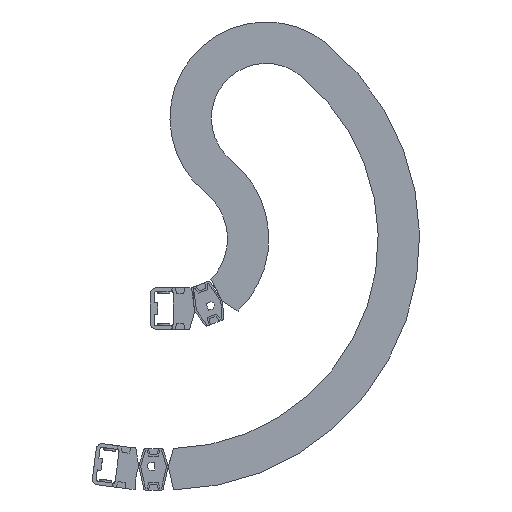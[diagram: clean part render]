
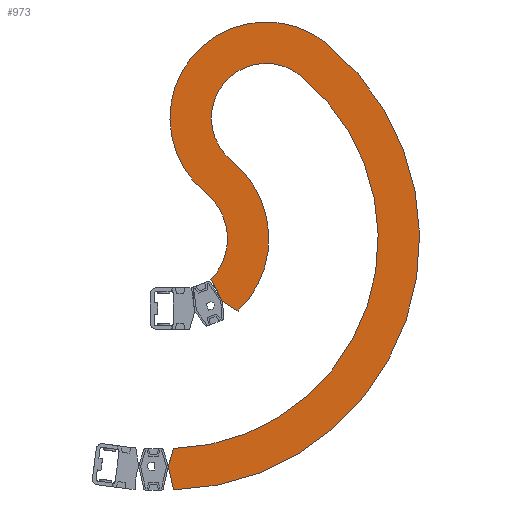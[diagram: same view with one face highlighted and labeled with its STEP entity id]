
A CAD part, front view. The second image highlights one B-rep face of the part: STEP entity #973.
In plain terms, the highlighted planar face has unit normal (0, -1, 0).
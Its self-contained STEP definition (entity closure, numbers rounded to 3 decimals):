
#973 = ADVANCED_FACE( '', ( #1944 ), #1945, .F. );
#1944 = FACE_OUTER_BOUND( '', #2914, .T. );
#1945 = PLANE( '', #2915 );
#2914 = EDGE_LOOP( '', ( #5707, #5708, #5709, #5710, #5711, #5712, #5713, #5714, #5715, #5716 ) );
#2915 = AXIS2_PLACEMENT_3D( '', #5717, #5718, #5719 );
#5707 = ORIENTED_EDGE( '', *, *, #7140, .F. );
#5708 = ORIENTED_EDGE( '', *, *, #7087, .F. );
#5709 = ORIENTED_EDGE( '', *, *, #6990, .F. );
#5710 = ORIENTED_EDGE( '', *, *, #6487, .T. );
#5711 = ORIENTED_EDGE( '', *, *, #7046, .F. );
#5712 = ORIENTED_EDGE( '', *, *, #7166, .F. );
#5713 = ORIENTED_EDGE( '', *, *, #6838, .F. );
#5714 = ORIENTED_EDGE( '', *, *, #6624, .T. );
#5715 = ORIENTED_EDGE( '', *, *, #7112, .T. );
#5716 = ORIENTED_EDGE( '', *, *, #6958, .F. );
#5717 = CARTESIAN_POINT( '', ( 0., -40.5, 0. ) );
#5718 = DIRECTION( '', ( 0., 1., 0. ) );
#5719 = DIRECTION( '', ( 0., 0., 1. ) );
#6487 = EDGE_CURVE( '', #8040, #8041, #8042, .T. );
#6624 = EDGE_CURVE( '', #8242, #8243, #8244, .T. );
#6838 = EDGE_CURVE( '', #8242, #8537, #8538, .T. );
#6958 = EDGE_CURVE( '', #8690, #8692, #8693, .T. );
#6990 = EDGE_CURVE( '', #8040, #8729, #8730, .T. );
#7046 = EDGE_CURVE( '', #8797, #8041, #8799, .T. );
#7087 = EDGE_CURVE( '', #8729, #8849, #8850, .T. );
#7112 = EDGE_CURVE( '', #8243, #8692, #8877, .T. );
#7140 = EDGE_CURVE( '', #8849, #8690, #8907, .T. );
#7166 = EDGE_CURVE( '', #8537, #8797, #8935, .T. );
#8040 = VERTEX_POINT( '', #10146 );
#8041 = VERTEX_POINT( '', #10147 );
#8042 = CIRCLE( '', #10148, 40. );
#8242 = VERTEX_POINT( '', #10436 );
#8243 = VERTEX_POINT( '', #10437 );
#8244 = CIRCLE( '', #10438, 37. );
#8537 = VERTEX_POINT( '', #10867 );
#8538 = CIRCLE( '', #10868, 68. );
#8690 = VERTEX_POINT( '', #11090 );
#8692 = VERTEX_POINT( '', #11093 );
#8693 = LINE( '', #11094, #11095 );
#8729 = VERTEX_POINT( '', #11145 );
#8730 = CIRCLE( '', #11146, 65. );
#8797 = VERTEX_POINT( '', #11244 );
#8799 = LINE( '', #11247, #11248 );
#8849 = VERTEX_POINT( '', #11318 );
#8850 = CIRCLE( '', #11319, 170. );
#8877 = CIRCLE( '', #11356, 142. );
#8907 = LINE( '', #11398, #11399 );
#8935 = LINE( '', #11438, #11439 );
#10146 = CARTESIAN_POINT( '', ( 25.189, -40.5, 31.073 ) );
#10147 = CARTESIAN_POINT( '', ( 28.827, -40.5, -27.731 ) );
#10148 = AXIS2_PLACEMENT_3D( '', #12033, #12034, #12035 );
#10436 = CARTESIAN_POINT( '', ( 42.821, -40.5, 52.824 ) );
#10437 = CARTESIAN_POINT( '', ( 89.419, -40.5, 110.309 ) );
#10438 = AXIS2_PLACEMENT_3D( '', #12172, #12173, #12174 );
#10867 = CARTESIAN_POINT( '', ( 47.167, -40.5, -48.982 ) );
#10868 = AXIS2_PLACEMENT_3D( '', #12380, #12381, #12382 );
#11090 = CARTESIAN_POINT( '', ( 0., -40.5, -154. ) );
#11093 = CARTESIAN_POINT( '', ( 3.591, -40.5, -141.955 ) );
#11094 = CARTESIAN_POINT( '', ( 0., -40.5, -154. ) );
#11095 = VECTOR( '', #12493, 1000. );
#11145 = CARTESIAN_POINT( '', ( 107.051, -40.5, 132.061 ) );
#11146 = AXIS2_PLACEMENT_3D( '', #12514, #12515, #12516 );
#11244 = CARTESIAN_POINT( '', ( 36.684, -40.5, -42.311 ) );
#11247 = CARTESIAN_POINT( '', ( 36.684, -40.5, -42.311 ) );
#11248 = VECTOR( '', #12555, 1000. );
#11318 = CARTESIAN_POINT( '', ( 3.57, -40.5, -169.963 ) );
#11319 = AXIS2_PLACEMENT_3D( '', #12582, #12583, #12584 );
#11356 = AXIS2_PLACEMENT_3D( '', #12598, #12599, #12600 );
#11398 = CARTESIAN_POINT( '', ( 3.57, -40.5, -169.963 ) );
#11399 = VECTOR( '', #12616, 1000. );
#11438 = CARTESIAN_POINT( '', ( 47.167, -40.5, -48.982 ) );
#11439 = VECTOR( '', #12637, 1000. );
#12033 = CARTESIAN_POINT( '', ( 0., -40.5, 0. ) );
#12034 = DIRECTION( '', ( 0., 1., 0. ) );
#12035 = DIRECTION( '', ( 1., 0., 0. ) );
#12172 = CARTESIAN_POINT( '', ( 66.12, -40.5, 81.567 ) );
#12173 = DIRECTION( '', ( 0., 1., 0. ) );
#12174 = DIRECTION( '', ( 1., 0., 0. ) );
#12380 = CARTESIAN_POINT( '', ( 0., -40.5, 0. ) );
#12381 = DIRECTION( '', ( 0., 1., 0. ) );
#12382 = DIRECTION( '', ( 1., 0., 0. ) );
#12493 = DIRECTION( '', ( 0.286, 0., 0.958 ) );
#12514 = CARTESIAN_POINT( '', ( 66.12, -40.5, 81.567 ) );
#12515 = DIRECTION( '', ( 0., 1., 0. ) );
#12516 = DIRECTION( '', ( 1., 0., 0. ) );
#12555 = DIRECTION( '', ( -0.474, 0., 0.88 ) );
#12582 = CARTESIAN_POINT( '', ( 0., -40.5, 0. ) );
#12583 = DIRECTION( '', ( 0., 1., 0. ) );
#12584 = DIRECTION( '', ( 1., 0., 0. ) );
#12598 = CARTESIAN_POINT( '', ( 0., -40.5, 0. ) );
#12599 = DIRECTION( '', ( 0., 1., 0. ) );
#12600 = DIRECTION( '', ( 1., 0., 0. ) );
#12616 = DIRECTION( '', ( -0.218, 0., 0.976 ) );
#12637 = DIRECTION( '', ( -0.844, 0., 0.537 ) );
